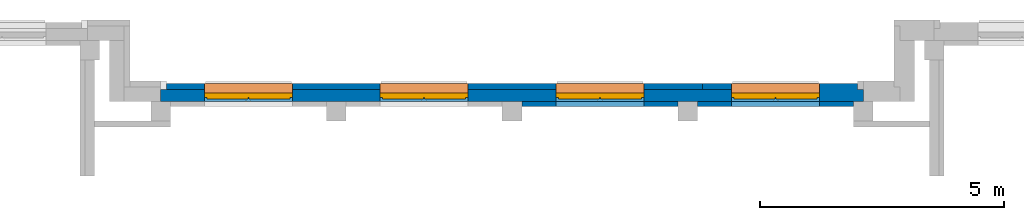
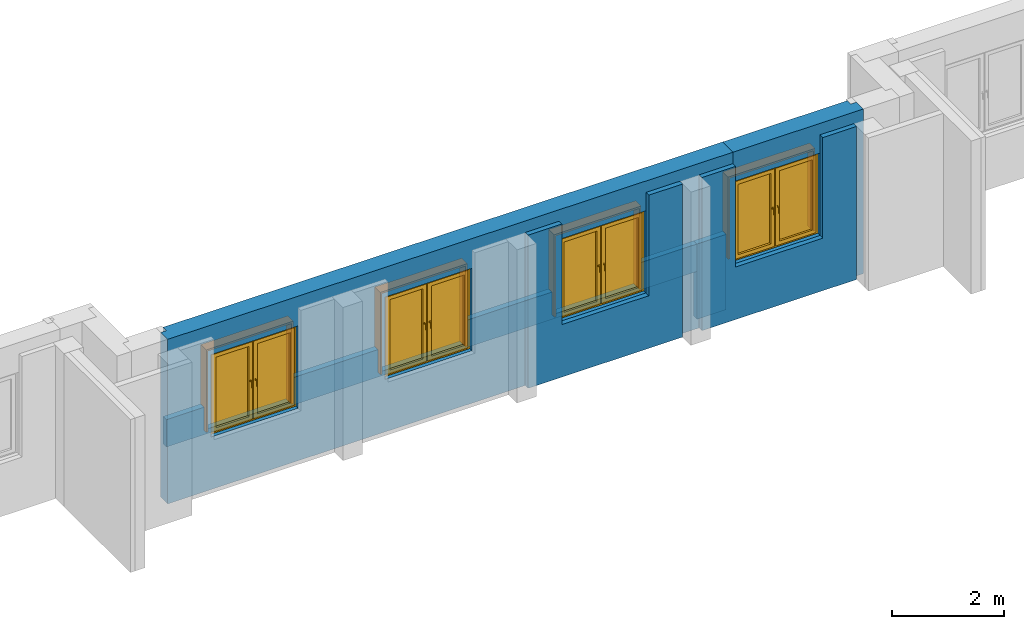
# One storey, part 3 of 7: 6 walls, 4 proxies, 4 windows, 9 openings.
"""IFC4 building model written with IfcOpenShell, lengths in metres."""

from ifc_helpers import new_model, entity, si_unit, converted_unit, derived_unit, frame, frame_2d, origin, origin_with_axes, place, context, subcontext, project, spatial, polyline, rectangle, outline, extrude, clip, bounded_halfspace, closed_shell, open_shell, faceted_brep, surface_model, source, transform, mapped, material, layer, layer_set, layer_usage, element, fill, save


model = new_model("IFC4")

# Units and contexts
model_context = context("Model", 3, precision=1e-05, world=origin())
body_context = subcontext(model_context, "Body", "Model", "MODEL_VIEW")
ifc_project = project(units=[si_unit("LENGTHUNIT", "METRE"), si_unit("AREAUNIT", "SQUARE_METRE"), si_unit("VOLUMEUNIT", "CUBIC_METRE"), si_unit("MASSUNIT", "GRAM", prefix="KILO"), converted_unit("PLANEANGLEUNIT", "DEGREE", entity("IfcPlaneAngleMeasure", 0.0174532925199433), si_unit("PLANEANGLEUNIT", "RADIAN"), dimensions=[0, 0, 0, 0, 0, 0, 0]), derived_unit("THERMALTRANSMITTANCEUNIT", [(si_unit("POWERUNIT", "WATT"), 1), (si_unit("THERMODYNAMICTEMPERATUREUNIT", "KELVIN"), -1), (si_unit("LENGTHUNIT", "METRE"), -2)]), derived_unit("VOLUMETRICFLOWRATEUNIT", [(si_unit("LENGTHUNIT", "METRE"), 3), (converted_unit("TIMEUNIT", "hour", entity("IfcTimeMeasure", 3600.0), si_unit("TIMEUNIT", "SECOND"), dimensions=[0, 0, 1, 0, 0, 0, 0]), -1), (si_unit("LENGTHUNIT", "METRE"), -1)])], contexts=[model_context])

# Site, building, storey
site_placement = place(None, origin())
site = spatial("IfcSite", under=ifc_project, at=site_placement, Name="3. ASŘ", CompositionType="ELEMENT")
building_placement = place(site_placement, origin())
building = spatial("IfcBuilding", under=site, at=building_placement, Name="Pavilon B", CompositionType="ELEMENT")
storey_placement = place(building_placement, frame((0.0, 0.0, 3.6)))
storey = spatial("IfcBuildingStorey", under=building, at=storey_placement, Name="Půdorys 2.NP", CompositionType="ELEMENT", Elevation=3.6)

# Wall, opening
ifc_material_1 = material(Name="PÓROBETONOVÉ ZDIVO")
ifc_layer_1 = layer(ifc_material_1, 0.1)
ifc_layer_set_1 = layer_set([ifc_layer_1])
ifc_layer_usage_1 = layer_usage(ifc_layer_set_1, "AXIS2", "POSITIVE", 0.0)
wall_1_placement = place(storey_placement, frame((47.45, -16.85, -0.1), z_axis=(0.0, 0.0, 1.0), x_axis=(-1.0, 0.0, 0.0)))
wall_1 = element("IfcWall", 1, at=wall_1_placement, inside=storey, material=ifc_layer_usage_1, Name="PÓROBETONOVÉ ZDIVO", context=body_context, shape_type="SweptSolid", body=[
    extrude(rectangle(XDim=3.2, YDim=0.1, at=frame_2d((1.6, 0.05), x_axis=(1.0, 0.0))), origin_with_axes(), (0.0, 0.0, 1.0), 3.35),
])
opening_1_placement = place(wall_1_placement, frame((2.5, 0.1, 1.15), z_axis=(0.0, -1.0, 0.0), x_axis=(0.0, 0.0, 1.0)))
element("IfcOpeningElement", 2, at=opening_1_placement, cuts=wall_1, Name="Okenní otvor", ObjectType="Opening", context=body_context, shape_type="SweptSolid", body=[
    extrude(outline(polyline([(0.0, 1.8), (2.2, 1.8), (2.2, 0.0), (0.0, 0.0), (0.0, 1.8)])), origin_with_axes(), (0.0, 0.0, 1.0), 0.1),
])

ifc_material_2 = material(Name="PÓROBETONOVÉ ZDIVO")
ifc_layer_2 = layer(ifc_material_2, 0.1)
ifc_layer_set_2 = layer_set([ifc_layer_2])
ifc_layer_usage_2 = layer_usage(ifc_layer_set_2, "AXIS2", "POSITIVE", 0.0)
wall_2_placement = place(storey_placement, frame((43.85, -16.85, -0.1), z_axis=(0.0, 0.0, 1.0), x_axis=(-1.0, 0.0, 0.0)))
wall_2 = element("IfcWall", 3, at=wall_2_placement, inside=storey, material=ifc_layer_usage_2, Name="PÓROBETONOVÉ ZDIVO", context=body_context, shape_type="SweptSolid", body=[
    extrude(rectangle(XDim=3.2, YDim=0.1, at=frame_2d((1.6, 0.05), x_axis=(1.0, 0.0))), origin_with_axes(), (0.0, 0.0, 1.0), 3.35),
])
opening_2_placement = place(wall_2_placement, frame((2.5, 0.1, 1.15), z_axis=(0.0, -1.0, 0.0), x_axis=(0.0, 0.0, 1.0)))
element("IfcOpeningElement", 4, at=opening_2_placement, cuts=wall_2, Name="Okenní otvor", ObjectType="Opening", context=body_context, shape_type="SweptSolid", body=[
    extrude(outline(polyline([(0.0, 1.8), (2.2, 1.8), (2.2, 0.0), (0.0, 0.0), (0.0, 1.8)])), origin_with_axes(), (0.0, 0.0, 1.0), 0.1),
])

# Wall, openings, windows, proxies
ifc_material_3 = material(Name="ZELEZOBETONOVÁ KCE")
ifc_layer_3 = layer(ifc_material_3, 0.249999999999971)
ifc_material_4 = material(Name="MINERÁLNÍ VATA")
ifc_layer_4 = layer(ifc_material_4, 0.119999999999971)
ifc_layer_set_3 = layer_set([ifc_layer_3, ifc_layer_4])
ifc_layer_usage_3 = layer_usage(ifc_layer_set_3, "AXIS2", "POSITIVE", 0.0)
wall_3_placement = place(storey_placement, frame((33.25, -16.85, -0.1)))
wall_3 = element("IfcWall", 5, at=wall_3_placement, inside=storey, material=ifc_layer_usage_3, Name="ZELEZOBETONOVÁ KCE", context=body_context, shape_type="Clipping", body=[
    clip(extrude(outline(polyline([(0.12, 0.369999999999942), (0.12, 0.249999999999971), (0.0, 0.249999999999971), (0.0, 0.0), (11.7, 0.0), (11.7, 0.369999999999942), (0.12, 0.369999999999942)])), origin_with_axes(), (0.0, 0.0, 1.0), 3.6), bounded_halfspace(frame((5.91, 0.309999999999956, 1.65), z_axis=(0.0, 0.0, 1.0), x_axis=(0.0, -1.0, 0.0)), True, origin_with_axes(), polyline([(0.12, 0.369999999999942), (0.12, 0.249999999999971), (11.7, 0.249999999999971), (11.7, 0.369999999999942), (0.12, 0.369999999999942)]))),
])
opening_3_placement = place(wall_3_placement, frame((9.9, 0.369999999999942, 1.15), z_axis=(0.0, -1.0, 0.0), x_axis=(0.0, 0.0, 1.0)))
opening_3 = element("IfcOpeningElement", 6, at=opening_3_placement, cuts=wall_3, Name="Okenní otvor", ObjectType="Opening", context=body_context, shape_type="SweptSolid", body=[
    extrude(outline(polyline([(0.0, 1.8), (1.8, 1.8), (1.8, 0.0), (0.0, 0.0), (0.0, 1.8)])), origin_with_axes(), (0.0, 0.0, 1.0), 0.119999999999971),
    extrude(outline(polyline([(0.0, 1.8), (1.8, 1.8), (1.8, 0.0), (0.0, 0.0), (0.0, 1.8)])), frame((0.0, 0.0, 0.119999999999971), z_axis=(0.0, 0.0, 1.0), x_axis=(1.0, 0.0, 0.0)), (0.0, 0.0, 1.0), 0.249999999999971),
])
opening_4_placement = place(wall_3_placement, frame((6.3, 0.369999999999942, 1.15), z_axis=(0.0, -1.0, 0.0), x_axis=(0.0, 0.0, 1.0)))
opening_4 = element("IfcOpeningElement", 7, at=opening_4_placement, cuts=wall_3, Name="Okenní otvor", ObjectType="Opening", context=body_context, shape_type="SweptSolid", body=[
    extrude(outline(polyline([(0.0, 1.8), (1.8, 1.8), (1.8, 0.0), (0.0, 0.0), (0.0, 1.8)])), origin_with_axes(), (0.0, 0.0, 1.0), 0.119999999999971),
    extrude(outline(polyline([(0.0, 1.8), (1.8, 1.8), (1.8, 0.0), (0.0, 0.0), (0.0, 1.8)])), frame((0.0, 0.0, 0.119999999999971), z_axis=(0.0, 0.0, 1.0), x_axis=(1.0, 0.0, 0.0)), (0.0, 0.0, 1.0), 0.249999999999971),
])
opening_5_placement = place(wall_3_placement, frame((2.7, 0.369999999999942, 1.15), z_axis=(0.0, -1.0, 0.0), x_axis=(0.0, 0.0, 1.0)))
opening_5 = element("IfcOpeningElement", 8, at=opening_5_placement, cuts=wall_3, Name="Okenní otvor", ObjectType="Opening", context=body_context, shape_type="SweptSolid", body=[
    extrude(outline(polyline([(0.0, 1.8), (1.8, 1.8), (1.8, 0.0), (0.0, 0.0), (0.0, 1.8)])), origin_with_axes(), (0.0, 0.0, 1.0), 0.119999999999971),
    extrude(outline(polyline([(0.0, 1.8), (1.8, 1.8), (1.8, 0.0), (0.0, 0.0), (0.0, 1.8)])), frame((0.0, 0.0, 0.119999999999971), z_axis=(0.0, 0.0, 1.0), x_axis=(1.0, 0.0, 0.0)), (0.0, 0.0, 1.0), 0.249999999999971),
])
shared_shape = source(origin_with_axes(), body_context, "Body", "SurfaceModel", [
    surface_model("IfcShellBasedSurfaceModel", [(0.0, 0.182, 1.8), (0.0, 0.182, -5.63337527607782e-18), (0.08, 0.182, -5.63337527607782e-18), (0.08, 0.182, 1.8), (0.0, 0.0899999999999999, 5.63337527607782e-18), (0.0, 0.0900000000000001, 1.8), (0.08, 0.0900000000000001, 1.8), (0.08, 0.0899999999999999, 5.63337527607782e-18)], [closed_shell([[[0, 1, 2, 3]], [[4, 5, 6, 7]], [[1, 0, 5, 4]], [[2, 1, 4, 7]], [[3, 2, 7, 6]], [[0, 3, 6, 5]]], orient=[[False], [False], [False], [False], [False], [False]])]),
    surface_model("IfcShellBasedSurfaceModel", [(1.72, 0.182, 1.8), (1.72, 0.182, -5.63337527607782e-18), (1.8, 0.182, -5.63337527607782e-18), (1.8, 0.182, 1.8), (1.72, 0.0899999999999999, 5.63337527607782e-18), (1.72, 0.0900000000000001, 1.8), (1.8, 0.0900000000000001, 1.8), (1.8, 0.0899999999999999, 5.63337527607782e-18)], [closed_shell([[[0, 1, 2, 3]], [[4, 5, 6, 7]], [[1, 0, 5, 4]], [[2, 1, 4, 7]], [[3, 2, 7, 6]], [[0, 3, 6, 5]]], orient=[[False], [False], [False], [False], [False], [False]])]),
    surface_model("IfcShellBasedSurfaceModel", [(0.08, 0.182, 0.08), (0.08, 0.182, -5.63337527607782e-18), (1.72, 0.182, -5.63337527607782e-18), (1.72, 0.182, 0.08), (0.08, 0.0899999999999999, 5.63337527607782e-18), (0.08, 0.0899999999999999, 0.08), (1.72, 0.0899999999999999, 0.08), (1.72, 0.0899999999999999, 5.63337527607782e-18)], [closed_shell([[[0, 1, 2, 3]], [[4, 5, 6, 7]], [[1, 0, 5, 4]], [[2, 1, 4, 7]], [[3, 2, 7, 6]], [[0, 3, 6, 5]]], orient=[[False], [False], [False], [False], [False], [False]])]),
    surface_model("IfcShellBasedSurfaceModel", [(0.08, 0.182, 1.8), (0.08, 0.182, 1.72), (1.72, 0.182, 1.72), (1.72, 0.182, 1.8), (0.08, 0.0900000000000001, 1.72), (0.08, 0.0900000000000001, 1.8), (1.72, 0.0900000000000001, 1.8), (1.72, 0.0900000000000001, 1.72)], [closed_shell([[[0, 1, 2, 3]], [[4, 5, 6, 7]], [[1, 0, 5, 4]], [[2, 1, 4, 7]], [[3, 2, 7, 6]], [[0, 3, 6, 5]]], orient=[[False], [False], [False], [False], [False], [False]])]),
    surface_model("IfcShellBasedSurfaceModel", [(0.86, 0.182, 1.72), (0.86, 0.182, 0.08), (0.94, 0.182, 0.08), (0.94, 0.182, 1.72), (0.86, 0.0899999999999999, 0.08), (0.86, 0.0900000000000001, 1.72), (0.94, 0.0900000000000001, 1.72), (0.94, 0.0899999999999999, 0.08)], [closed_shell([[[0, 1, 2, 3]], [[4, 5, 6, 7]], [[1, 0, 5, 4]], [[2, 1, 4, 7]], [[3, 2, 7, 6]], [[0, 3, 6, 5]]], orient=[[False], [False], [False], [False], [False], [False]])]),
    surface_model("IfcShellBasedSurfaceModel", [(0.05, 0.145, 1.75), (0.05, 0.145, 0.05), (0.13, 0.145, 0.05), (0.13, 0.145, 1.75), (0.05, 0.0599999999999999, 0.05), (0.05, 0.0600000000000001, 1.75), (0.13, 0.0600000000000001, 1.75), (0.13, 0.0599999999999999, 0.05)], [closed_shell([[[0, 1, 2, 3]], [[4, 5, 6, 7]], [[1, 0, 5, 4]], [[2, 1, 4, 7]], [[3, 2, 7, 6]], [[0, 3, 6, 5]]], orient=[[False], [False], [False], [False], [False], [False]])]),
    surface_model("IfcShellBasedSurfaceModel", [(0.81, 0.145, 1.75), (0.81, 0.145, 0.05), (0.89, 0.145, 0.05), (0.89, 0.145, 1.75), (0.81, 0.0599999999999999, 0.05), (0.81, 0.0600000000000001, 1.75), (0.89, 0.0600000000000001, 1.75), (0.89, 0.0599999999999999, 0.05)], [closed_shell([[[0, 1, 2, 3]], [[4, 5, 6, 7]], [[1, 0, 5, 4]], [[2, 1, 4, 7]], [[3, 2, 7, 6]], [[0, 3, 6, 5]]], orient=[[False], [False], [False], [False], [False], [False]])]),
    surface_model("IfcShellBasedSurfaceModel", [(0.13, 0.145, 0.13), (0.13, 0.145, 0.05), (0.81, 0.145, 0.05), (0.81, 0.145, 0.13), (0.13, 0.0599999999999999, 0.05), (0.13, 0.0599999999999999, 0.13), (0.81, 0.0599999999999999, 0.13), (0.81, 0.0599999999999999, 0.05)], [closed_shell([[[0, 1, 2, 3]], [[4, 5, 6, 7]], [[1, 0, 5, 4]], [[2, 1, 4, 7]], [[3, 2, 7, 6]], [[0, 3, 6, 5]]], orient=[[False], [False], [False], [False], [False], [False]])]),
    surface_model("IfcShellBasedSurfaceModel", [(0.13, 0.145, 1.75), (0.13, 0.145, 1.67), (0.81, 0.145, 1.67), (0.81, 0.145, 1.75), (0.13, 0.0600000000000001, 1.67), (0.13, 0.0600000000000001, 1.75), (0.81, 0.0600000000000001, 1.75), (0.81, 0.0600000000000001, 1.67)], [closed_shell([[[0, 1, 2, 3]], [[4, 5, 6, 7]], [[1, 0, 5, 4]], [[2, 1, 4, 7]], [[3, 2, 7, 6]], [[0, 3, 6, 5]]], orient=[[False], [False], [False], [False], [False], [False]])]),
    surface_model("IfcShellBasedSurfaceModel", [(0.8375, 0.06, 0.92), (0.8375, 0.06, 0.88), (0.8625, 0.06, 0.88), (0.8625, 0.06, 0.92), (0.8375, 0.05, 0.88), (0.8375, 0.05, 0.92), (0.8625, 0.05, 0.92), (0.8625, 0.05, 0.88)], [closed_shell([[[0, 1, 2, 3]], [[4, 5, 6, 7]], [[1, 0, 5, 4]], [[2, 1, 4, 7]], [[3, 2, 7, 6]], [[0, 3, 6, 5]]], orient=[[False], [False], [False], [False], [False], [False]])]),
    surface_model("IfcShellBasedSurfaceModel", [(0.86, 0.05, 0.9), (0.858660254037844, 0.05, 0.905), (0.855, 0.05, 0.908660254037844), (0.85, 0.05, 0.91), (0.845, 0.05, 0.908660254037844), (0.841339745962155, 0.05, 0.905), (0.84, 0.05, 0.9), (0.841339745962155, 0.05, 0.895), (0.845, 0.05, 0.891339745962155), (0.85, 0.05, 0.89), (0.855, 0.05, 0.891339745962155), (0.858660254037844, 0.05, 0.895), (0.86, 0.01, 0.9), (0.858660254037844, 0.00500000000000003, 0.905), (0.855, 0.00133974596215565, 0.908660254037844), (0.85, 2.8421709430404e-17, 0.91), (0.845, 0.00133974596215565, 0.908660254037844), (0.841339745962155, 0.00500000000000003, 0.905), (0.84, 0.01, 0.9), (0.841339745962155, 0.015, 0.895), (0.845, 0.0186602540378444, 0.891339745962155), (0.85, 0.02, 0.89), (0.855, 0.0186602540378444, 0.891339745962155), (0.858660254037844, 0.015, 0.895), (0.86, 0.01, 0.785), (0.858660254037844, 0.005, 0.785), (0.855, 0.00133974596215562, 0.785), (0.85, 0.0, 0.785), (0.845, 0.00133974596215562, 0.785), (0.841339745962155, 0.005, 0.785), (0.84, 0.01, 0.785), (0.841339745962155, 0.015, 0.785), (0.845, 0.0186602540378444, 0.785), (0.85, 0.02, 0.785), (0.855, 0.0186602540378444, 0.785), (0.858660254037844, 0.015, 0.785)], [open_shell([[[0, 1, 2, 3, 4, 5, 6, 7, 8, 9, 10, 11]], [[0, 12, 13, 1]], [[1, 13, 14, 2]], [[2, 14, 15, 3]], [[3, 15, 16, 4]], [[4, 16, 17, 5]], [[5, 17, 18, 6]], [[6, 18, 19, 7]], [[7, 19, 20, 8]], [[8, 20, 21, 9]], [[9, 21, 22, 10]], [[10, 22, 23, 11]], [[11, 23, 12, 0]], [[12, 24, 25, 13]], [[13, 25, 26, 14]], [[14, 26, 27, 15]], [[15, 27, 28, 16]], [[16, 28, 29, 17]], [[17, 29, 30, 18]], [[18, 30, 31, 19]], [[19, 31, 32, 20]], [[20, 32, 33, 21]], [[21, 33, 34, 22]], [[22, 34, 35, 23]], [[23, 35, 24, 12]]], orient=[[False], [False], [False], [False], [False], [False], [False], [False], [False], [False], [False], [False], [False], [False], [False], [False], [False], [False], [False], [False], [False], [False], [False], [False], [False]])]),
    surface_model("IfcShellBasedSurfaceModel", [(0.91, 0.145, 1.75), (0.91, 0.145, 0.05), (0.99, 0.145, 0.05), (0.99, 0.145, 1.75), (0.91, 0.0599999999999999, 0.05), (0.91, 0.0600000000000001, 1.75), (0.99, 0.0600000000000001, 1.75), (0.99, 0.0599999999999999, 0.05)], [closed_shell([[[0, 1, 2, 3]], [[4, 5, 6, 7]], [[1, 0, 5, 4]], [[2, 1, 4, 7]], [[3, 2, 7, 6]], [[0, 3, 6, 5]]], orient=[[False], [False], [False], [False], [False], [False]])]),
    surface_model("IfcShellBasedSurfaceModel", [(1.67, 0.145, 1.75), (1.67, 0.145, 0.05), (1.75, 0.145, 0.05), (1.75, 0.145, 1.75), (1.67, 0.0599999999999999, 0.05), (1.67, 0.0600000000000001, 1.75), (1.75, 0.0600000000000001, 1.75), (1.75, 0.0599999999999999, 0.05)], [closed_shell([[[0, 1, 2, 3]], [[4, 5, 6, 7]], [[1, 0, 5, 4]], [[2, 1, 4, 7]], [[3, 2, 7, 6]], [[0, 3, 6, 5]]], orient=[[False], [False], [False], [False], [False], [False]])]),
    surface_model("IfcShellBasedSurfaceModel", [(0.99, 0.145, 0.13), (0.99, 0.145, 0.05), (1.67, 0.145, 0.05), (1.67, 0.145, 0.13), (0.99, 0.0599999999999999, 0.05), (0.99, 0.0599999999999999, 0.13), (1.67, 0.0599999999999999, 0.13), (1.67, 0.0599999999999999, 0.05)], [closed_shell([[[0, 1, 2, 3]], [[4, 5, 6, 7]], [[1, 0, 5, 4]], [[2, 1, 4, 7]], [[3, 2, 7, 6]], [[0, 3, 6, 5]]], orient=[[False], [False], [False], [False], [False], [False]])]),
    surface_model("IfcShellBasedSurfaceModel", [(0.99, 0.145, 1.75), (0.99, 0.145, 1.67), (1.67, 0.145, 1.67), (1.67, 0.145, 1.75), (0.99, 0.0600000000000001, 1.67), (0.99, 0.0600000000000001, 1.75), (1.67, 0.0600000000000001, 1.75), (1.67, 0.0600000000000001, 1.67)], [closed_shell([[[0, 1, 2, 3]], [[4, 5, 6, 7]], [[1, 0, 5, 4]], [[2, 1, 4, 7]], [[3, 2, 7, 6]], [[0, 3, 6, 5]]], orient=[[False], [False], [False], [False], [False], [False]])]),
    surface_model("IfcShellBasedSurfaceModel", [(0.9375, 0.06, 0.92), (0.9375, 0.06, 0.88), (0.9625, 0.06, 0.88), (0.9625, 0.06, 0.92), (0.9375, 0.05, 0.88), (0.9375, 0.05, 0.92), (0.9625, 0.05, 0.92), (0.9625, 0.05, 0.88)], [closed_shell([[[0, 1, 2, 3]], [[4, 5, 6, 7]], [[1, 0, 5, 4]], [[2, 1, 4, 7]], [[3, 2, 7, 6]], [[0, 3, 6, 5]]], orient=[[False], [False], [False], [False], [False], [False]])]),
    surface_model("IfcShellBasedSurfaceModel", [(0.96, 0.05, 0.9), (0.958660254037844, 0.05, 0.905), (0.955, 0.05, 0.908660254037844), (0.95, 0.05, 0.91), (0.945, 0.05, 0.908660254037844), (0.941339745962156, 0.05, 0.905), (0.94, 0.05, 0.9), (0.941339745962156, 0.05, 0.895), (0.945, 0.05, 0.891339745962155), (0.95, 0.05, 0.89), (0.955, 0.05, 0.891339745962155), (0.958660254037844, 0.05, 0.895), (0.96, 0.01, 0.9), (0.958660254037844, 0.00500000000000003, 0.905), (0.955, 0.00133974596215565, 0.908660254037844), (0.95, 2.8421709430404e-17, 0.91), (0.945, 0.00133974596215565, 0.908660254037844), (0.941339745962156, 0.00500000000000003, 0.905), (0.94, 0.01, 0.9), (0.941339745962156, 0.015, 0.895), (0.945, 0.0186602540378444, 0.891339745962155), (0.95, 0.02, 0.89), (0.955, 0.0186602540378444, 0.891339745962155), (0.958660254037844, 0.015, 0.895), (0.96, 0.01, 0.785), (0.958660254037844, 0.005, 0.785), (0.955, 0.00133974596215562, 0.785), (0.95, 0.0, 0.785), (0.945, 0.00133974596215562, 0.785), (0.941339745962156, 0.005, 0.785), (0.94, 0.01, 0.785), (0.941339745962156, 0.015, 0.785), (0.945, 0.0186602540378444, 0.785), (0.95, 0.02, 0.785), (0.955, 0.0186602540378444, 0.785), (0.958660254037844, 0.015, 0.785)], [open_shell([[[0, 1, 2, 3, 4, 5, 6, 7, 8, 9, 10, 11]], [[0, 12, 13, 1]], [[1, 13, 14, 2]], [[2, 14, 15, 3]], [[3, 15, 16, 4]], [[4, 16, 17, 5]], [[5, 17, 18, 6]], [[6, 18, 19, 7]], [[7, 19, 20, 8]], [[8, 20, 21, 9]], [[9, 21, 22, 10]], [[10, 22, 23, 11]], [[11, 23, 12, 0]], [[12, 24, 25, 13]], [[13, 25, 26, 14]], [[14, 26, 27, 15]], [[15, 27, 28, 16]], [[16, 28, 29, 17]], [[17, 29, 30, 18]], [[18, 30, 31, 19]], [[19, 31, 32, 20]], [[20, 32, 33, 21]], [[21, 33, 34, 22]], [[22, 34, 35, 23]], [[23, 35, 24, 12]]], orient=[[False], [False], [False], [False], [False], [False], [False], [False], [False], [False], [False], [False], [False], [False], [False], [False], [False], [False], [False], [False], [False], [False], [False], [False], [False]])]),
    surface_model("IfcShellBasedSurfaceModel", [(0.13, 0.1025, 0.13), (0.81, 0.1025, 0.13), (0.81, 0.1025, 1.67), (0.13, 0.1025, 1.67)], [open_shell([[[0, 1, 2, 3]]], orient=[[False]])]),
    surface_model("IfcShellBasedSurfaceModel", [(0.99, 0.1025, 0.13), (1.67, 0.1025, 0.13), (1.67, 0.1025, 1.67), (0.99, 0.1025, 1.67)], [open_shell([[[0, 1, 2, 3]]], orient=[[False]])]),
])
window_1_placement = place(opening_3_placement, frame((0.0, 0.0, 0.382), z_axis=(1.0, 0.0, 0.0), x_axis=(0.0, 1.0, -2.44929359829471e-16)))
window_1 = element("IfcWindow", 9, at=window_1_placement, inside=storey, Name="O06", OverallHeight=1.8, OverallWidth=1.8, PartitioningType="USERDEFINED", PredefinedType="WINDOW", context=body_context, shape_type="MappedRepresentation", body=[
    mapped(shared_shape, transform((0.0, 0.0, 0.0), x_axis=(1.0, 0.0, 0.0), y_axis=(0.0, -1.0, 0.0), z_axis=(0.0, 0.0, 1.0), scale=1.0)),
])
fill(opening_3, window_1)
window_2_placement = place(opening_4_placement, frame((0.0, 0.0, 0.382), z_axis=(1.0, 0.0, 0.0), x_axis=(0.0, 1.0, -2.44929359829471e-16)))
window_2 = element("IfcWindow", 10, at=window_2_placement, inside=storey, Name="O06", OverallHeight=1.8, OverallWidth=1.8, PartitioningType="USERDEFINED", PredefinedType="WINDOW", context=body_context, shape_type="MappedRepresentation", body=[
    mapped(shared_shape, transform((0.0, 0.0, 0.0), x_axis=(1.0, 0.0, 0.0), y_axis=(0.0, -1.0, 0.0), z_axis=(0.0, 0.0, 1.0), scale=1.0)),
])
fill(opening_4, window_2)
window_3_placement = place(opening_5_placement, frame((0.0, 0.0, 0.382), z_axis=(1.0, 0.0, 0.0), x_axis=(0.0, 1.0, -2.44929359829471e-16)))
window_3 = element("IfcWindow", 11, at=window_3_placement, inside=storey, Name="O06", OverallHeight=1.8, OverallWidth=1.8, PartitioningType="USERDEFINED", PredefinedType="WINDOW", context=body_context, shape_type="MappedRepresentation", body=[
    mapped(shared_shape, transform((0.0, 0.0, 0.0), x_axis=(1.0, 0.0, 0.0), y_axis=(0.0, -1.0, 0.0), z_axis=(0.0, 0.0, 1.0), scale=1.0)),
])
fill(opening_5, window_3)
ifc_material_5 = material(Name="MINERÁLNÍ VATA")
proxy_1_placement = place(opening_3_placement, frame((0.0, 1.8, 0.2)))
proxy_1 = element("IfcBuildingElementProxy", 12, at=proxy_1_placement, inside=storey, material=ifc_material_5, context=body_context, shape_type="Brep", body=[
    faceted_brep([(0.0, -1.8, -0.2), (0.0, -1.8, 0.0), (1.8, -1.8, 0.0), (1.8, -1.8, -0.2), (0.0, -1.76, 0.0), (0.0, -1.76, -0.2), (1.76, -1.76, -0.2), (1.76, -1.76, 0.0), (1.8, 0.0, 0.0), (1.8, 0.0, -0.2), (0.0, 0.0, -0.2), (0.0, -0.0400000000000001, -0.2), (1.76, -0.0400000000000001, -0.2), (1.76, -0.0400000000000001, 0.0), (0.0, -0.0400000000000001, 0.0), (0.0, 0.0, 0.0)], [[[0, 1, 2, 3]], [[4, 5, 6, 7]], [[0, 5, 4, 1]], [[3, 2, 8, 9]], [[6, 5, 0, 3, 9, 10, 11, 12]], [[13, 14, 15, 8, 2, 1, 4, 7]], [[7, 6, 12, 13]], [[11, 14, 13, 12]], [[15, 10, 9, 8]], [[11, 10, 15, 14]]], orient=[[False], [False], [False], [False], [False], [False], [False], [False], [False], [False]]),
])
fill(opening_3, proxy_1)
ifc_material_6 = material(Name="MINERÁLNÍ VATA")
proxy_2_placement = place(opening_4_placement, frame((0.0, 1.8, 0.2)))
proxy_2 = element("IfcBuildingElementProxy", 13, at=proxy_2_placement, inside=storey, material=ifc_material_6, context=body_context, shape_type="Brep", body=[
    faceted_brep([(0.0, 0.0, 0.0), (0.0, 0.0, -0.2), (1.8, 0.0, -0.2), (1.8, 0.0, 0.0), (1.8, -1.8, -0.2), (1.8, -1.8, 0.0), (0.0, -0.0400000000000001, -0.2), (0.0, -0.0400000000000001, 0.0), (0.0, -1.8, 0.0), (0.0, -1.76, 0.0), (1.76, -1.76, 0.0), (1.76, -0.0400000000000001, 0.0), (1.76, -0.0400000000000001, -0.2), (1.76, -1.76, -0.2), (0.0, -1.76, -0.2), (0.0, -1.8, -0.2)], [[[0, 1, 2, 3]], [[2, 4, 5, 3]], [[6, 1, 0, 7]], [[7, 0, 3, 5, 8, 9, 10, 11]], [[1, 6, 12, 13, 14, 15, 4, 2]], [[6, 7, 11, 12]], [[15, 8, 5, 4]], [[15, 14, 9, 8]], [[9, 14, 13, 10]], [[10, 13, 12, 11]]], orient=[[False], [False], [False], [False], [False], [False], [False], [False], [False], [False]]),
])
fill(opening_4, proxy_2)
ifc_material_7 = material(Name="MINERÁLNÍ VATA")
proxy_3_placement = place(opening_5_placement, frame((0.0, 1.8, 0.2)))
proxy_3 = element("IfcBuildingElementProxy", 14, at=proxy_3_placement, inside=storey, material=ifc_material_7, context=body_context, shape_type="Brep", body=[
    faceted_brep([(0.0, -1.8, -0.2), (0.0, -1.8, 0.0), (1.8, -1.8, 0.0), (1.8, -1.8, -0.2), (0.0, -1.76, 0.0), (0.0, -1.76, -0.2), (1.76, -1.76, -0.2), (1.76, -1.76, 0.0), (1.8, 0.0, 0.0), (1.8, 0.0, -0.2), (0.0, 0.0, -0.2), (0.0, -0.0400000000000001, -0.2), (1.76, -0.0400000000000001, -0.2), (1.76, -0.0400000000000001, 0.0), (0.0, -0.0400000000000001, 0.0), (0.0, 0.0, 0.0)], [[[0, 1, 2, 3]], [[4, 5, 6, 7]], [[0, 5, 4, 1]], [[3, 2, 8, 9]], [[6, 5, 0, 3, 9, 10, 11, 12]], [[13, 14, 15, 8, 2, 1, 4, 7]], [[7, 6, 12, 13]], [[11, 14, 13, 12]], [[15, 10, 9, 8]], [[11, 10, 15, 14]]], orient=[[False], [False], [False], [False], [False], [False], [False], [False], [False], [False]]),
])
fill(opening_5, proxy_3)

# Wall, opening, window, proxy
ifc_material_8 = material(Name="ZELEZOBETONOVÁ KCE")
ifc_layer_5 = layer(ifc_material_8, 0.249999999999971)
ifc_material_9 = material(Name="MINERÁLNÍ VATA")
ifc_layer_6 = layer(ifc_material_9, 0.119999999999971)
ifc_layer_set_4 = layer_set([ifc_layer_5, ifc_layer_6])
ifc_layer_usage_4 = layer_usage(ifc_layer_set_4, "AXIS2", "POSITIVE", 0.0)
wall_4_placement = place(storey_placement, frame((44.95, -16.85, -0.1)))
wall_4 = element("IfcWall", 15, at=wall_4_placement, inside=storey, material=ifc_layer_usage_4, Name="ZELEZOBETONOVÁ KCE", context=body_context, shape_type="SweptSolid", body=[
    extrude(outline(polyline([(0.0, 0.0), (2.7, 0.0), (2.7, 0.249999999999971), (2.58, 0.249999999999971), (2.58, 0.369999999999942), (0.0, 0.369999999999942), (0.0, 0.0)])), origin_with_axes(), (0.0, 0.0, 1.0), 3.6),
])
opening_6_placement = place(wall_4_placement, frame((1.8, 0.369999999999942, 1.15), z_axis=(0.0, -1.0, 0.0), x_axis=(0.0, 0.0, 1.0)))
opening_6 = element("IfcOpeningElement", 16, at=opening_6_placement, cuts=wall_4, Name="Okenní otvor", ObjectType="Opening", context=body_context, shape_type="SweptSolid", body=[
    extrude(outline(polyline([(0.0, 1.8), (1.8, 1.8), (1.8, 0.0), (0.0, 0.0), (0.0, 1.8)])), origin_with_axes(), (0.0, 0.0, 1.0), 0.119999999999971),
    extrude(outline(polyline([(0.0, 1.8), (1.8, 1.8), (1.8, 0.0), (0.0, 0.0), (0.0, 1.8)])), frame((0.0, 0.0, 0.119999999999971), z_axis=(0.0, 0.0, 1.0), x_axis=(1.0, 0.0, 0.0)), (0.0, 0.0, 1.0), 0.249999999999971),
])
window_4_placement = place(opening_6_placement, frame((0.0, 0.0, 0.382), z_axis=(1.0, 0.0, 0.0), x_axis=(0.0, 1.0, -2.44929359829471e-16)))
window_4 = element("IfcWindow", 17, at=window_4_placement, inside=storey, Name="O06", OverallHeight=1.8, OverallWidth=1.8, PartitioningType="USERDEFINED", PredefinedType="WINDOW", context=body_context, shape_type="MappedRepresentation", body=[
    mapped(shared_shape, transform((0.0, 0.0, 0.0), x_axis=(1.0, 0.0, 0.0), y_axis=(0.0, -1.0, 0.0), z_axis=(0.0, 0.0, 1.0), scale=1.0)),
])
fill(opening_6, window_4)
ifc_material_10 = material(Name="MINERÁLNÍ VATA")
proxy_4_placement = place(opening_6_placement, frame((0.0, 1.8, 0.2)))
proxy_4 = element("IfcBuildingElementProxy", 18, at=proxy_4_placement, inside=storey, material=ifc_material_10, context=body_context, shape_type="Brep", body=[
    faceted_brep([(0.0, 0.0, 0.0), (0.0, 0.0, -0.2), (1.8, 0.0, -0.2), (1.8, 0.0, 0.0), (1.8, -1.8, -0.2), (1.8, -1.8, 0.0), (0.0, -0.0400000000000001, -0.2), (0.0, -0.0400000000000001, 0.0), (0.0, -1.8, 0.0), (0.0, -1.76, 0.0), (1.76, -1.76, 0.0), (1.76, -0.0400000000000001, 0.0), (1.76, -0.0400000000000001, -0.2), (1.76, -1.76, -0.2), (0.0, -1.76, -0.2), (0.0, -1.8, -0.2)], [[[0, 1, 2, 3]], [[2, 4, 5, 3]], [[6, 1, 0, 7]], [[7, 0, 3, 5, 8, 9, 10, 11]], [[1, 6, 12, 13, 14, 15, 4, 2]], [[6, 7, 11, 12]], [[15, 8, 5, 4]], [[15, 14, 9, 8]], [[9, 14, 13, 10]], [[10, 13, 12, 11]]], orient=[[False], [False], [False], [False], [False], [False], [False], [False], [False], [False]]),
])
fill(opening_6, proxy_4)

# Wall
ifc_material_11 = material(Name="MINERÁLNÍ VATA")
ifc_layer_7 = layer(ifc_material_11, 0.12)
ifc_layer_set_5 = layer_set([ifc_layer_7])
ifc_layer_usage_5 = layer_usage(ifc_layer_set_5, "AXIS2", "POSITIVE", 0.0)
wall_5_placement = place(storey_placement, frame((44.95, -16.4800000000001, -0.1), z_axis=(0.0, 0.0, 1.0), x_axis=(-1.0, 0.0, 0.0)))
element("IfcWall", 19, at=wall_5_placement, inside=storey, material=ifc_layer_usage_5, Name="MINERÁLNÍ VATA", context=body_context, shape_type="SweptSolid", body=[
    extrude(rectangle(XDim=0.6, YDim=0.12, at=frame_2d((0.3, 0.06), x_axis=(1.0, 0.0))), origin_with_axes(), (0.0, 0.0, 1.0), 1.65),
])

# Wall, openings
ifc_material_12 = material(Name="MINERÁLNÍ VATA")
ifc_layer_8 = layer(ifc_material_12, 0.12)
ifc_layer_set_6 = layer_set([ifc_layer_8])
ifc_layer_usage_6 = layer_usage(ifc_layer_set_6, "AXIS2", "POSITIVE", 0.0)
wall_6_placement = place(storey_placement, frame((44.35, -16.4800000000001, 0.95), z_axis=(0.0, 0.0, 1.0), x_axis=(-1.0, 0.0, 0.0)))
wall_6 = element("IfcWall", 20, at=wall_6_placement, inside=storey, material=ifc_layer_usage_6, Name="MINERÁLNÍ VATA", context=body_context, shape_type="SweptSolid", body=[
    extrude(rectangle(XDim=10.98, YDim=0.12, at=frame_2d((5.49, 0.06), x_axis=(1.0, 0.0))), origin_with_axes(), (0.0, 0.0, 1.0), 0.6),
])
opening_7_placement = place(wall_6_placement, frame((8.4, 0.0, 0.1), z_axis=(0.0, 1.0, 0.0), x_axis=(0.0, 0.0, 1.0)))
element("IfcOpeningElement", 21, at=opening_7_placement, cuts=wall_6, Name="Okenní otvor", ObjectType="Opening", context=body_context, shape_type="SweptSolid", body=[
    extrude(outline(polyline([(0.0, 1.8), (2.2, 1.8), (2.2, 0.0), (0.0, 0.0), (0.0, 1.8)])), origin_with_axes(), (0.0, 0.0, 1.0), 0.12),
])
opening_8_placement = place(wall_6_placement, frame((4.8, 0.0, 0.1), z_axis=(0.0, 1.0, 0.0), x_axis=(0.0, 0.0, 1.0)))
element("IfcOpeningElement", 22, at=opening_8_placement, cuts=wall_6, Name="Okenní otvor", ObjectType="Opening", context=body_context, shape_type="SweptSolid", body=[
    extrude(outline(polyline([(0.0, 1.8), (2.2, 1.8), (2.2, 0.0), (0.0, 0.0), (0.0, 1.8)])), origin_with_axes(), (0.0, 0.0, 1.0), 0.12),
])
opening_9_placement = place(wall_6_placement, frame((1.2, 0.0, 0.1), z_axis=(0.0, 1.0, 0.0), x_axis=(0.0, 0.0, 1.0)))
element("IfcOpeningElement", 23, at=opening_9_placement, cuts=wall_6, Name="Okenní otvor", ObjectType="Opening", context=body_context, shape_type="SweptSolid", body=[
    extrude(outline(polyline([(0.0, 1.8), (2.2, 1.8), (2.2, 0.0), (0.0, 0.0), (0.0, 1.8)])), origin_with_axes(), (0.0, 0.0, 1.0), 0.12),
])

save(model, "model.ifc")
